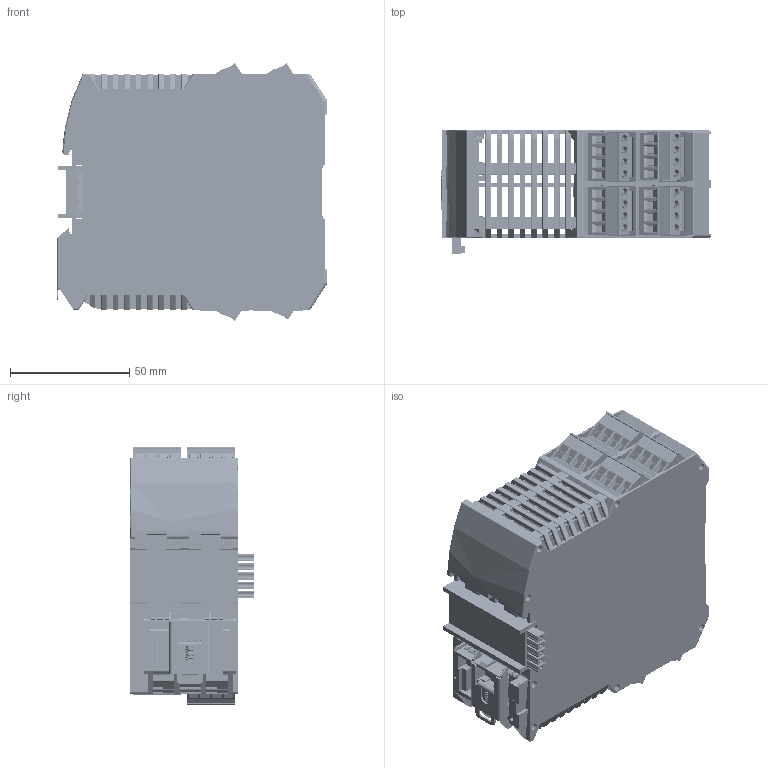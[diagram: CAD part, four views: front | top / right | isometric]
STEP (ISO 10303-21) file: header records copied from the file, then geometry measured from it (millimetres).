
FILE_DESCRIPTION(('STEP AP214'), '1');
FILE_NAME('MIS-1AC-230-SD', '', ('UNSPECIFIED'), ('UNSPECIFIED'), 'C3D Converter', 'C3D Toolkit', '');
FILE_SCHEMA(('AUTOMOTIVE_DESIGN { 1 0 10303 214 3 1 1}'));
Length unit declared in the file: millimetre
Bounding box: 113.65 x 51.8 x 108 mm (x, y, z)
Volume: 121912.8 mm3; surface area: 153086.8 mm2
Topology: 4 solids, 45 shells, 9138 faces, 25760 edges, 16925 vertices
Faces by surface type: plane 5928, extrusion 1885, cylinder 1212, cone 100, bspline 6, revolution 4, torus 3
Full cylindrical faces by diameter (mm): 0.3 x7, 0.6 x4, 1 x64, 1.35 x1, 1.4 x21, 1.6 x21, 2 x23, 2.2 x14, 2.5 x1, 2.8 x24, 3 x16, 3.796 x24, 4 x24, 4.5 x1
Entity records: 404037 total; most frequent: CARTESIAN_POINT 101356, ORIENTED_EDGE 50931, DIRECTION 40119, EDGE_CURVE 25467, VECTOR 20471, LINE 18586, VERTEX_POINT 16926, EDGE_LOOP 10195
